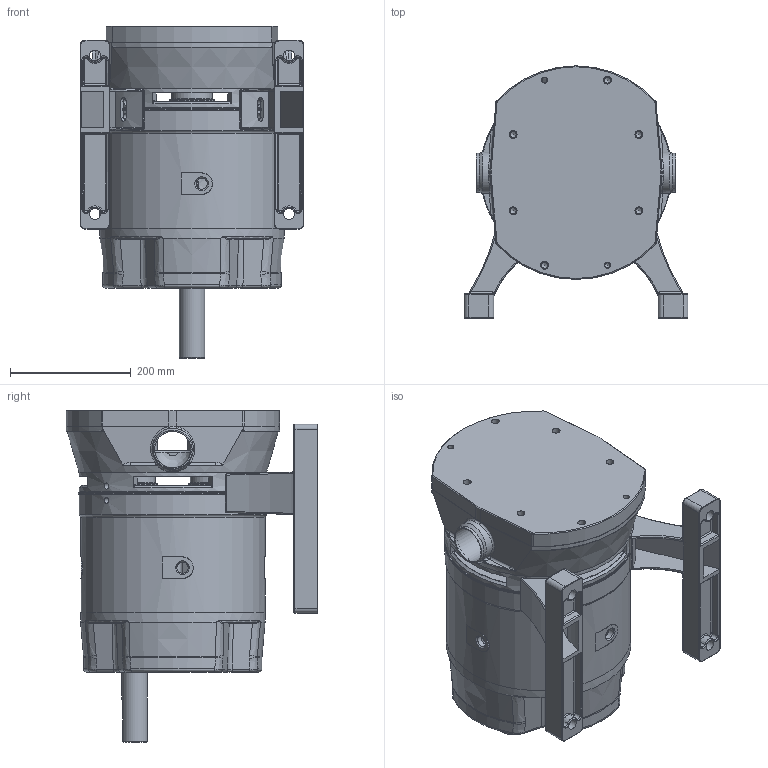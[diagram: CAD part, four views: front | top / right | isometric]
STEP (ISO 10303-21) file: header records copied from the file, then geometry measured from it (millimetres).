
FILE_DESCRIPTION(/* description */ (''),/* implementation_level */ '2;1');
FILE_NAME(/* name */ 'DW+5 commercial use.stp',/* time_stamp */ '2025-10-14T14:59:37+02:00',/* author */ ('WA4RRE'),/* organization */ (''),/* preprocessor_version */ 'ST-DEVELOPER v20',/* originating_system */ 'Autodesk Inventor 2025',/* authorisation */ '');
FILE_SCHEMA (('AUTOMOTIVE_DESIGN { 1 0 10303 214 3 1 1 }'));
Products named in the file (9): DW5 ASSEMBLY; H11588_New; H11598; H10258; H10259; CVLA1302500; CVLA1364500; F11122-G10909; F11122-DW5_MIR1
Assembly tree (8 placements, depth 2):
  DW5 ASSEMBLY
    H11588_New
    H11598
    H10258
    H10259
    CVLA1302500
    CVLA1364500
    F11122-G10909
    F11122-DW5_MIR1
Bounding box: 370 x 416.5 x 548.93 mm (x, y, z)
Volume: 15318371.2 mm3; surface area: 2104096.3 mm2
Topology: 8 solids, 8 shells, 1471 faces, 3716 edges, 2303 vertices
Faces by surface type: cylinder 468, plane 331, bspline 291, torus 202, cone 177, sphere 2
Full cylindrical faces by diameter (mm): 3.1 x2, 4.496 x2, 6.647 x12, 8.376 x2, 9 x4, 10.106 x20, 12 x8, 13 x14, 18 x4, 18.631 x4, 20 x11, 21.835 x2, 25 x2, 42 x1, 42.05 x1, 42.5 x2, 45 x2, 47 x4, 50 x2, 55 x1, 59.5 x2, 60 x4, 60.3 x2, 64.1 x2, 65 x2, 68 x4, 75 x2, 101.4 x2, 110 x2, 110.5 x2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
Entity records: 58770 total; most frequent: CARTESIAN_POINT 23877, ORIENTED_EDGE 7312, DIRECTION 6876, EDGE_CURVE 3656, AXIS2_PLACEMENT_3D 2826, VERTEX_POINT 2303, EDGE_LOOP 1681, CIRCLE 1499
